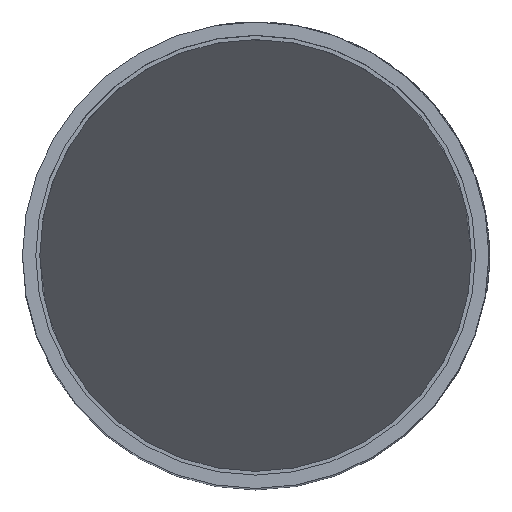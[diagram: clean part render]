
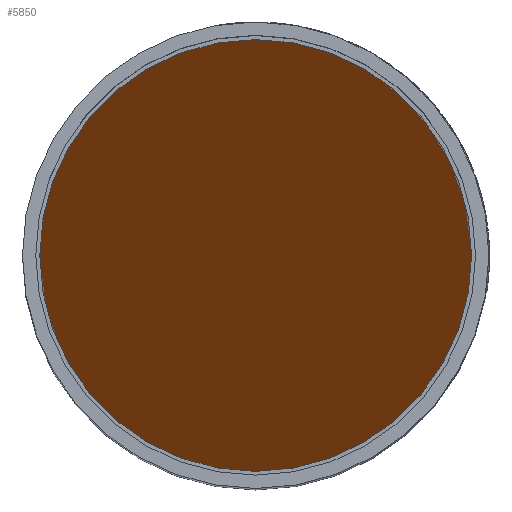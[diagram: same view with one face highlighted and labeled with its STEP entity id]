
A CAD part, top view. The second image highlights one B-rep face of the part: STEP entity #5850.
In plain terms, the highlighted planar face has unit normal (0, -0.707, 0.707).
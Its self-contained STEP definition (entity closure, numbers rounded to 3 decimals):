
#1624 = CARTESIAN_POINT ( 'NONE',  ( 538.536, -166.664, 166.664 ) ) ;
#5850 = ADVANCED_FACE ( 'NONE', ( #52197 ), #76781, .F. ) ;
#9292 = ORIENTED_EDGE ( 'NONE', *, *, #77105, .T. ) ;
#9535 = EDGE_CURVE ( 'NONE', #77473, #57606, #69364, .T. ) ;
#16625 = CARTESIAN_POINT ( 'NONE',  ( 162., 324., 657.328 ) ) ;
#18527 = CARTESIAN_POINT ( 'NONE',  ( -162., -324., 9.328 ) ) ;
#20972 = DIRECTION ( 'NONE',  ( 0., 0.707, -0.707 ) ) ;
#24134 = CARTESIAN_POINT ( 'NONE',  ( 162., 0., 333.328 ) ) ;
#27626 = ORIENTED_EDGE ( 'NONE', *, *, #9535, .T. ) ;
#29878 = CARTESIAN_POINT ( 'NONE',  ( 162., -324., 9.328 ) ) ;
#32198 =( BOUNDED_CURVE ( )  B_SPLINE_CURVE ( 3, ( #49711, #18527, #29878, #24134 ),
 .UNSPECIFIED., .F., .T. ) 
 B_SPLINE_CURVE_WITH_KNOTS ( ( 4, 4 ),
 ( 4.712, 7.854 ),
 .UNSPECIFIED. ) 
 CURVE ( )  GEOMETRIC_REPRESENTATION_ITEM ( )  RATIONAL_B_SPLINE_CURVE ( ( 1., 0.333, 0.333, 1. ) ) 
 REPRESENTATION_ITEM ( '' )  );
#36954 = EDGE_LOOP ( 'NONE', ( #9292, #27626 ) ) ;
#39127 = CARTESIAN_POINT ( 'NONE',  ( -162., 0., 333.328 ) ) ;
#41584 = CARTESIAN_POINT ( 'NONE',  ( -162., 324., 657.328 ) ) ;
#45999 = DIRECTION ( 'NONE',  ( 0., 0.707, 0.707 ) ) ;
#49711 = CARTESIAN_POINT ( 'NONE',  ( -162., 0., 333.328 ) ) ;
#49876 = CARTESIAN_POINT ( 'NONE',  ( 162., 0., 333.328 ) ) ;
#52197 = FACE_OUTER_BOUND ( 'NONE', #36954, .T. ) ;
#53893 = AXIS2_PLACEMENT_3D ( 'NONE', #1624, #20972, #45999 ) ;
#57606 = VERTEX_POINT ( 'NONE', #39127 ) ;
#69364 =( BOUNDED_CURVE ( )  B_SPLINE_CURVE ( 3, ( #79423, #16625, #41584, #72054 ),
 .UNSPECIFIED., .F., .F. ) 
 B_SPLINE_CURVE_WITH_KNOTS ( ( 4, 4 ),
 ( 1.571, 4.712 ),
 .UNSPECIFIED. ) 
 CURVE ( )  GEOMETRIC_REPRESENTATION_ITEM ( )  RATIONAL_B_SPLINE_CURVE ( ( 1., 0.333, 0.333, 1. ) ) 
 REPRESENTATION_ITEM ( '' )  );
#72054 = CARTESIAN_POINT ( 'NONE',  ( -162., 0., 333.328 ) ) ;
#76781 = PLANE ( 'NONE',  #53893 ) ;
#77105 = EDGE_CURVE ( 'NONE', #57606, #77473, #32198, .T. ) ;
#77473 = VERTEX_POINT ( 'NONE', #49876 ) ;
#79423 = CARTESIAN_POINT ( 'NONE',  ( 162., 0., 333.328 ) ) ;
